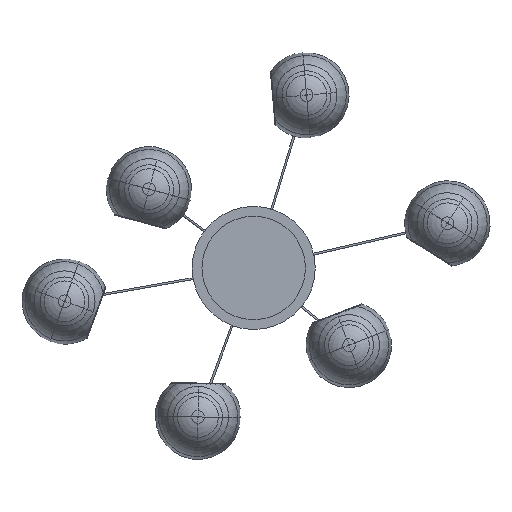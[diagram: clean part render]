
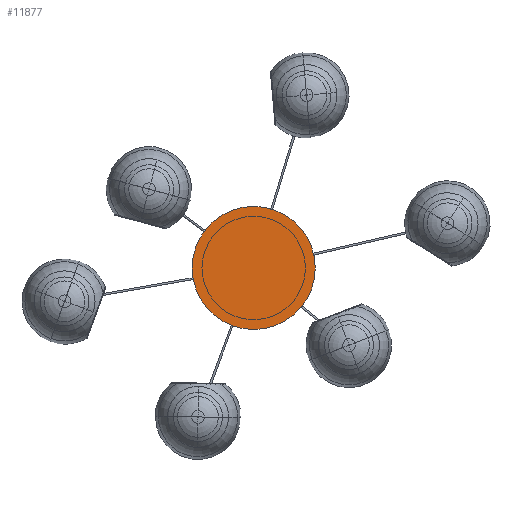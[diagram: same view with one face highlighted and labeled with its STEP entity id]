
A CAD part, front view. The second image highlights one B-rep face of the part: STEP entity #11877.
In plain terms, the highlighted planar face has unit normal (0, -1, 0).
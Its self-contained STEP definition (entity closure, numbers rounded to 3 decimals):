
#1799 = PLANE ( 'NONE',  #7935 ) ;
#1967 = AXIS2_PLACEMENT_3D ( 'NONE', #9779, #14165, #9444 ) ;
#2066 = CARTESIAN_POINT ( 'NONE',  ( 0., -15., -125. ) ) ;
#3243 = DIRECTION ( 'NONE',  ( 0., 0., -1. ) ) ;
#3352 = AXIS2_PLACEMENT_3D ( 'NONE', #11590, #7551, #3243 ) ;
#3996 = CIRCLE ( 'NONE', #1967, 125. ) ;
#4234 = CIRCLE ( 'NONE', #3352, 125. ) ;
#6111 = EDGE_CURVE ( 'NONE', #16448, #9333, #3996, .T. ) ;
#7396 = DIRECTION ( 'NONE',  ( 0., -1., 0. ) ) ;
#7551 = DIRECTION ( 'NONE',  ( 0., -1., 0. ) ) ;
#7935 = AXIS2_PLACEMENT_3D ( 'NONE', #2066, #7396, #17085 ) ;
#7960 = CARTESIAN_POINT ( 'NONE',  ( 0., -15., -125. ) ) ;
#9026 = ORIENTED_EDGE ( 'NONE', *, *, #6111, .T. ) ;
#9333 = VERTEX_POINT ( 'NONE', #13997 ) ;
#9444 = DIRECTION ( 'NONE',  ( 0., 0., -1. ) ) ;
#9779 = CARTESIAN_POINT ( 'NONE',  ( 0., -15., 0. ) ) ;
#11529 = FACE_OUTER_BOUND ( 'NONE', #14109, .T. ) ;
#11590 = CARTESIAN_POINT ( 'NONE',  ( 0., -15., 0. ) ) ;
#11877 = ADVANCED_FACE ( 'NONE', ( #11529 ), #1799, .T. ) ;
#13997 = CARTESIAN_POINT ( 'NONE',  ( 0., -15., 125. ) ) ;
#14109 = EDGE_LOOP ( 'NONE', ( #9026, #16378 ) ) ;
#14165 = DIRECTION ( 'NONE',  ( 0., -1., 0. ) ) ;
#16221 = EDGE_CURVE ( 'NONE', #9333, #16448, #4234, .T. ) ;
#16378 = ORIENTED_EDGE ( 'NONE', *, *, #16221, .T. ) ;
#16448 = VERTEX_POINT ( 'NONE', #7960 ) ;
#17085 = DIRECTION ( 'NONE',  ( 0., 0., -1. ) ) ;
